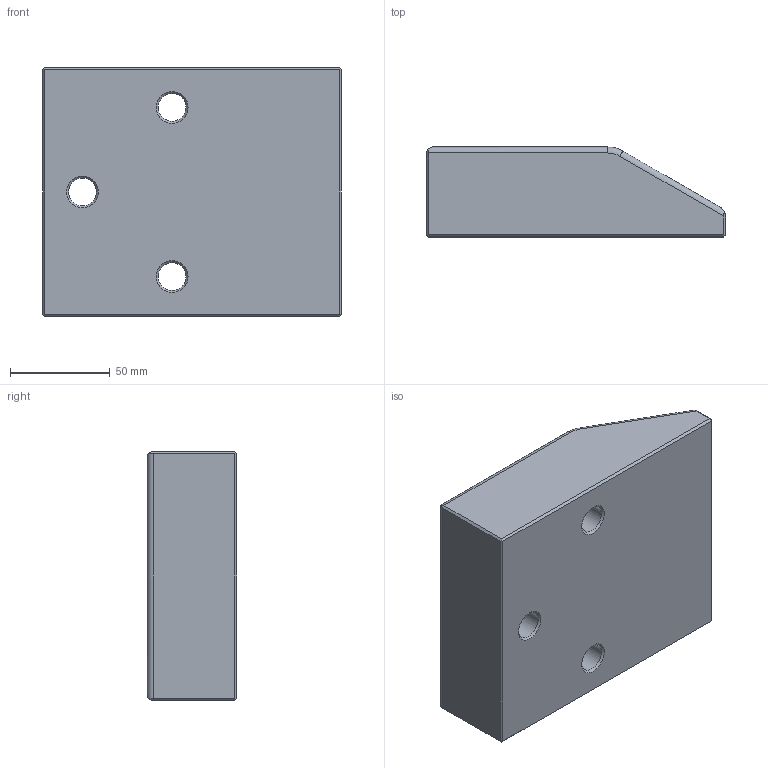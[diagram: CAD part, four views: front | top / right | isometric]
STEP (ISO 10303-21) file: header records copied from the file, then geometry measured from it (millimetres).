
FILE_DESCRIPTION(/* description */ ('Impex Ready, www.impex-ready.pl'),/* implementation_level */ '2;1');
FILE_NAME(/* name */ 'C:\Users\VIKKY\Nextcloud\SM\projekt 10 - części na stronę internetową\Pliki_3D_new\346 Kliny CA10\346_CA10_STEP\CA10.12545150.ipt.step',/* time_stamp */ '2021-12-08T18:50:16+03:00',/* author */ ('SM'),/* organization */ (''),/* preprocessor_version */ 'ST-DEVELOPER v18.1',/* originating_system */ 'Autodesk Inventor 2021',/* authorisation */ '');
FILE_SCHEMA (('AUTOMOTIVE_DESIGN { 1 0 10303 214 3 1 1 }'));
Length unit declared in the file: millimetre
Products named in the file (1): CA10.12545150
Bounding box: 150 x 45 x 125 mm (x, y, z)
Volume: 697424.4 mm3; surface area: 62948.7 mm2
Topology: 1 solids, 1 shells, 41 faces, 95 edges, 59 vertices
Faces by surface type: plane 20, cylinder 13, torus 5, cone 3
Full cylindrical faces by diameter (mm): 14 x3, 20 x3
Entity records: 1289 total; most frequent: DIRECTION 219, CARTESIAN_POINT 210, ORIENTED_EDGE 190, EDGE_CURVE 95, AXIS2_PLACEMENT_3D 84, VERTEX_POINT 59, LINE 51, VECTOR 51
